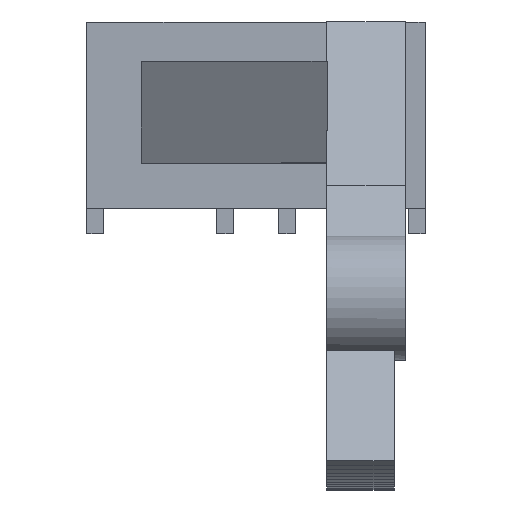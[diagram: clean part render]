
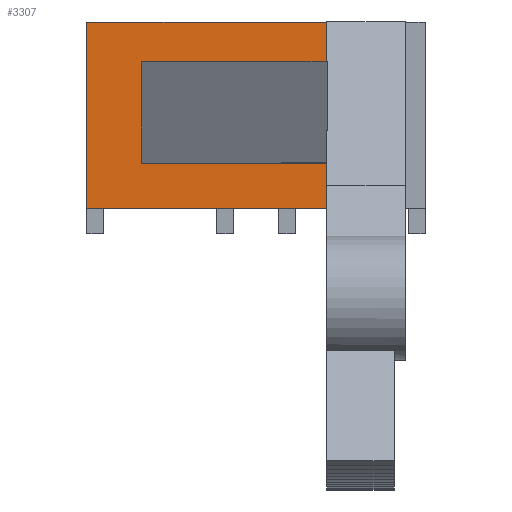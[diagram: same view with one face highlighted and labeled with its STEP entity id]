
A CAD part, top view. The second image highlights one B-rep face of the part: STEP entity #3307.
In plain terms, the highlighted planar face has unit normal (0, 0, 1).
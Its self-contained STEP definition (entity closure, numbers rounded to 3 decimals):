
#102 = PLANE('',#103);
#103 = AXIS2_PLACEMENT_3D('',#104,#105,#106);
#104 = CARTESIAN_POINT('',(6.5,0.,0.));
#105 = DIRECTION('',(1.,-0.,-0.));
#106 = DIRECTION('',(0.,0.,-1.));
#328 = PLANE('',#329);
#329 = AXIS2_PLACEMENT_3D('',#330,#331,#332);
#330 = CARTESIAN_POINT('',(6.5,49.,-41.));
#331 = DIRECTION('',(-0.,1.,-0.));
#332 = DIRECTION('',(0.,0.,-1.));
#384 = PLANE('',#385);
#385 = AXIS2_PLACEMENT_3D('',#386,#387,#388);
#386 = CARTESIAN_POINT('',(-36.,16.,-58.));
#387 = DIRECTION('',(0.,-1.,0.));
#388 = DIRECTION('',(0.,0.,-1.));
#620 = PLANE('',#621);
#621 = AXIS2_PLACEMENT_3D('',#622,#623,#624);
#622 = CARTESIAN_POINT('',(-27.,24.,-40.5));
#623 = DIRECTION('',(-0.619,-0.,0.785));
#624 = DIRECTION('',(-0.785,0.,-0.619));
#633 = VERTEX_POINT('',#634);
#634 = CARTESIAN_POINT('',(6.5,24.,-40.));
#648 = PLANE('',#649);
#649 = AXIS2_PLACEMENT_3D('',#650,#651,#652);
#650 = CARTESIAN_POINT('',(-5.873,24.,-31.577));
#651 = DIRECTION('',(-0.,-1.,-0.));
#652 = DIRECTION('',(0.,0.,-1.));
#660 = EDGE_CURVE('',#661,#633,#663,.T.);
#661 = VERTEX_POINT('',#662);
#662 = CARTESIAN_POINT('',(6.5,16.,-40.));
#663 = SURFACE_CURVE('',#664,(#668,#675),.PCURVE_S1.);
#664 = LINE('',#665,#666);
#665 = CARTESIAN_POINT('',(6.5,24.5,-40.));
#666 = VECTOR('',#667,1.);
#667 = DIRECTION('',(-0.,1.,-0.));
#668 = PCURVE('',#102,#669);
#669 = DEFINITIONAL_REPRESENTATION('',(#670),#674);
#670 = LINE('',#671,#672);
#671 = CARTESIAN_POINT('',(40.,24.5));
#672 = VECTOR('',#673,1.);
#673 = DIRECTION('',(-0.,1.));
#674 = ( GEOMETRIC_REPRESENTATION_CONTEXT(2) 
PARAMETRIC_REPRESENTATION_CONTEXT() REPRESENTATION_CONTEXT('2D SPACE',''
  ) );
#675 = PCURVE('',#676,#681);
#676 = PLANE('',#677);
#677 = AXIS2_PLACEMENT_3D('',#678,#679,#680);
#678 = CARTESIAN_POINT('',(-36.,49.,-40.));
#679 = DIRECTION('',(0.,0.,1.));
#680 = DIRECTION('',(-1.,0.,0.));
#681 = DEFINITIONAL_REPRESENTATION('',(#682),#686);
#682 = LINE('',#683,#684);
#683 = CARTESIAN_POINT('',(-42.5,24.5));
#684 = VECTOR('',#685,1.);
#685 = DIRECTION('',(-0.,-1.));
#686 = ( GEOMETRIC_REPRESENTATION_CONTEXT(2) 
PARAMETRIC_REPRESENTATION_CONTEXT() REPRESENTATION_CONTEXT('2D SPACE',''
  ) );
#2047 = PLANE('',#2048);
#2048 = AXIS2_PLACEMENT_3D('',#2049,#2050,#2051);
#2049 = CARTESIAN_POINT('',(6.5,0.,0.)
  );
#2050 = DIRECTION('',(1.,-0.,-0.));
#2051 = DIRECTION('',(0.,0.,-1.));
#2148 = PLANE('',#2149);
#2149 = AXIS2_PLACEMENT_3D('',#2150,#2151,#2152);
#2150 = CARTESIAN_POINT('',(-5.873,42.,-31.577));
#2151 = DIRECTION('',(-0.,-1.,-0.));
#2152 = DIRECTION('',(0.,0.,-1.));
#2572 = VERTEX_POINT('',#2573);
#2573 = CARTESIAN_POINT('',(-36.,16.,-40.));
#2587 = PLANE('',#2588);
#2588 = AXIS2_PLACEMENT_3D('',#2589,#2590,#2591);
#2589 = CARTESIAN_POINT('',(-36.,49.,-58.));
#2590 = DIRECTION('',(1.,-0.,-0.));
#2591 = DIRECTION('',(0.,0.,-1.));
#2599 = EDGE_CURVE('',#2572,#661,#2600,.T.);
#2600 = SURFACE_CURVE('',#2601,(#2605,#2612),.PCURVE_S1.);
#2601 = LINE('',#2602,#2603);
#2602 = CARTESIAN_POINT('',(-36.,16.,-40.));
#2603 = VECTOR('',#2604,1.);
#2604 = DIRECTION('',(1.,0.,-0.));
#2605 = PCURVE('',#384,#2606);
#2606 = DEFINITIONAL_REPRESENTATION('',(#2607),#2611);
#2607 = LINE('',#2608,#2609);
#2608 = CARTESIAN_POINT('',(-18.,0.));
#2609 = VECTOR('',#2610,1.);
#2610 = DIRECTION('',(-0.,1.));
#2611 = ( GEOMETRIC_REPRESENTATION_CONTEXT(2) 
PARAMETRIC_REPRESENTATION_CONTEXT() REPRESENTATION_CONTEXT('2D SPACE',''
  ) );
#2612 = PCURVE('',#676,#2613);
#2613 = DEFINITIONAL_REPRESENTATION('',(#2614),#2618);
#2614 = LINE('',#2615,#2616);
#2615 = CARTESIAN_POINT('',(-0.,33.));
#2616 = VECTOR('',#2617,1.);
#2617 = DIRECTION('',(-1.,0.));
#2618 = ( GEOMETRIC_REPRESENTATION_CONTEXT(2) 
PARAMETRIC_REPRESENTATION_CONTEXT() REPRESENTATION_CONTEXT('2D SPACE',''
  ) );
#2624 = VERTEX_POINT('',#2625);
#2625 = CARTESIAN_POINT('',(6.5,49.,-40.));
#2646 = EDGE_CURVE('',#2647,#2624,#2649,.T.);
#2647 = VERTEX_POINT('',#2648);
#2648 = CARTESIAN_POINT('',(-36.,49.,-40.));
#2649 = SURFACE_CURVE('',#2650,(#2654,#2661),.PCURVE_S1.);
#2650 = LINE('',#2651,#2652);
#2651 = CARTESIAN_POINT('',(-36.,49.,-40.));
#2652 = VECTOR('',#2653,1.);
#2653 = DIRECTION('',(1.,0.,-0.));
#2654 = PCURVE('',#328,#2655);
#2655 = DEFINITIONAL_REPRESENTATION('',(#2656),#2660);
#2656 = LINE('',#2657,#2658);
#2657 = CARTESIAN_POINT('',(-1.,42.5));
#2658 = VECTOR('',#2659,1.);
#2659 = DIRECTION('',(-0.,-1.));
#2660 = ( GEOMETRIC_REPRESENTATION_CONTEXT(2) 
PARAMETRIC_REPRESENTATION_CONTEXT() REPRESENTATION_CONTEXT('2D SPACE',''
  ) );
#2661 = PCURVE('',#676,#2662);
#2662 = DEFINITIONAL_REPRESENTATION('',(#2663),#2667);
#2663 = LINE('',#2664,#2665);
#2664 = CARTESIAN_POINT('',(-0.,-0.));
#2665 = VECTOR('',#2666,1.);
#2666 = DIRECTION('',(-1.,0.));
#2667 = ( GEOMETRIC_REPRESENTATION_CONTEXT(2) 
PARAMETRIC_REPRESENTATION_CONTEXT() REPRESENTATION_CONTEXT('2D SPACE',''
  ) );
#3137 = VERTEX_POINT('',#3138);
#3138 = CARTESIAN_POINT('',(-26.366,24.,-40.));
#3159 = EDGE_CURVE('',#3137,#3160,#3162,.T.);
#3160 = VERTEX_POINT('',#3161);
#3161 = CARTESIAN_POINT('',(-26.366,42.,-40.));
#3162 = SURFACE_CURVE('',#3163,(#3167,#3174),.PCURVE_S1.);
#3163 = LINE('',#3164,#3165);
#3164 = CARTESIAN_POINT('',(-26.366,36.5,-40.));
#3165 = VECTOR('',#3166,1.);
#3166 = DIRECTION('',(-0.,1.,-0.));
#3167 = PCURVE('',#620,#3168);
#3168 = DEFINITIONAL_REPRESENTATION('',(#3169),#3173);
#3169 = LINE('',#3170,#3171);
#3170 = CARTESIAN_POINT('',(-0.807,-12.5));
#3171 = VECTOR('',#3172,1.);
#3172 = DIRECTION('',(-0.,-1.));
#3173 = ( GEOMETRIC_REPRESENTATION_CONTEXT(2) 
PARAMETRIC_REPRESENTATION_CONTEXT() REPRESENTATION_CONTEXT('2D SPACE',''
  ) );
#3174 = PCURVE('',#676,#3175);
#3175 = DEFINITIONAL_REPRESENTATION('',(#3176),#3180);
#3176 = LINE('',#3177,#3178);
#3177 = CARTESIAN_POINT('',(-9.634,12.5));
#3178 = VECTOR('',#3179,1.);
#3179 = DIRECTION('',(-0.,-1.));
#3180 = ( GEOMETRIC_REPRESENTATION_CONTEXT(2) 
PARAMETRIC_REPRESENTATION_CONTEXT() REPRESENTATION_CONTEXT('2D SPACE',''
  ) );
#3258 = EDGE_CURVE('',#633,#3137,#3259,.T.);
#3259 = SURFACE_CURVE('',#3260,(#3264,#3271),.PCURVE_S1.);
#3260 = LINE('',#3261,#3262);
#3261 = CARTESIAN_POINT('',(-20.937,24.,-40.));
#3262 = VECTOR('',#3263,1.);
#3263 = DIRECTION('',(-1.,-0.,-0.));
#3264 = PCURVE('',#648,#3265);
#3265 = DEFINITIONAL_REPRESENTATION('',(#3266),#3270);
#3266 = LINE('',#3267,#3268);
#3267 = CARTESIAN_POINT('',(8.423,-15.063));
#3268 = VECTOR('',#3269,1.);
#3269 = DIRECTION('',(-0.,-1.));
#3270 = ( GEOMETRIC_REPRESENTATION_CONTEXT(2) 
PARAMETRIC_REPRESENTATION_CONTEXT() REPRESENTATION_CONTEXT('2D SPACE',''
  ) );
#3271 = PCURVE('',#676,#3272);
#3272 = DEFINITIONAL_REPRESENTATION('',(#3273),#3277);
#3273 = LINE('',#3274,#3275);
#3274 = CARTESIAN_POINT('',(-15.063,25.));
#3275 = VECTOR('',#3276,1.);
#3276 = DIRECTION('',(1.,-0.));
#3277 = ( GEOMETRIC_REPRESENTATION_CONTEXT(2) 
PARAMETRIC_REPRESENTATION_CONTEXT() REPRESENTATION_CONTEXT('2D SPACE',''
  ) );
#3307 = ADVANCED_FACE('',(#3308),#676,.T.);
#3308 = FACE_BOUND('',#3309,.F.);
#3309 = EDGE_LOOP('',(#3310,#3311,#3332,#3333,#3356,#3377,#3378,#3379));
#3310 = ORIENTED_EDGE('',*,*,#2599,.F.);
#3311 = ORIENTED_EDGE('',*,*,#3312,.F.);
#3312 = EDGE_CURVE('',#2647,#2572,#3313,.T.);
#3313 = SURFACE_CURVE('',#3314,(#3318,#3325),.PCURVE_S1.);
#3314 = LINE('',#3315,#3316);
#3315 = CARTESIAN_POINT('',(-36.,49.,-40.));
#3316 = VECTOR('',#3317,1.);
#3317 = DIRECTION('',(0.,-1.,0.));
#3318 = PCURVE('',#676,#3319);
#3319 = DEFINITIONAL_REPRESENTATION('',(#3320),#3324);
#3320 = LINE('',#3321,#3322);
#3321 = CARTESIAN_POINT('',(-0.,-0.));
#3322 = VECTOR('',#3323,1.);
#3323 = DIRECTION('',(-0.,1.));
#3324 = ( GEOMETRIC_REPRESENTATION_CONTEXT(2) 
PARAMETRIC_REPRESENTATION_CONTEXT() REPRESENTATION_CONTEXT('2D SPACE',''
  ) );
#3325 = PCURVE('',#2587,#3326);
#3326 = DEFINITIONAL_REPRESENTATION('',(#3327),#3331);
#3327 = LINE('',#3328,#3329);
#3328 = CARTESIAN_POINT('',(-18.,0.));
#3329 = VECTOR('',#3330,1.);
#3330 = DIRECTION('',(-0.,-1.));
#3331 = ( GEOMETRIC_REPRESENTATION_CONTEXT(2) 
PARAMETRIC_REPRESENTATION_CONTEXT() REPRESENTATION_CONTEXT('2D SPACE',''
  ) );
#3332 = ORIENTED_EDGE('',*,*,#2646,.T.);
#3333 = ORIENTED_EDGE('',*,*,#3334,.F.);
#3334 = EDGE_CURVE('',#3335,#2624,#3337,.T.);
#3335 = VERTEX_POINT('',#3336);
#3336 = CARTESIAN_POINT('',(6.5,42.,-40.));
#3337 = SURFACE_CURVE('',#3338,(#3342,#3349),.PCURVE_S1.);
#3338 = LINE('',#3339,#3340);
#3339 = CARTESIAN_POINT('',(6.5,24.5,-40.));
#3340 = VECTOR('',#3341,1.);
#3341 = DIRECTION('',(-0.,1.,-0.));
#3342 = PCURVE('',#676,#3343);
#3343 = DEFINITIONAL_REPRESENTATION('',(#3344),#3348);
#3344 = LINE('',#3345,#3346);
#3345 = CARTESIAN_POINT('',(-42.5,24.5));
#3346 = VECTOR('',#3347,1.);
#3347 = DIRECTION('',(-0.,-1.));
#3348 = ( GEOMETRIC_REPRESENTATION_CONTEXT(2) 
PARAMETRIC_REPRESENTATION_CONTEXT() REPRESENTATION_CONTEXT('2D SPACE',''
  ) );
#3349 = PCURVE('',#2047,#3350);
#3350 = DEFINITIONAL_REPRESENTATION('',(#3351),#3355);
#3351 = LINE('',#3352,#3353);
#3352 = CARTESIAN_POINT('',(40.,24.5));
#3353 = VECTOR('',#3354,1.);
#3354 = DIRECTION('',(-0.,1.));
#3355 = ( GEOMETRIC_REPRESENTATION_CONTEXT(2) 
PARAMETRIC_REPRESENTATION_CONTEXT() REPRESENTATION_CONTEXT('2D SPACE',''
  ) );
#3356 = ORIENTED_EDGE('',*,*,#3357,.T.);
#3357 = EDGE_CURVE('',#3335,#3160,#3358,.T.);
#3358 = SURFACE_CURVE('',#3359,(#3363,#3370),.PCURVE_S1.);
#3359 = LINE('',#3360,#3361);
#3360 = CARTESIAN_POINT('',(-20.937,42.,-40.));
#3361 = VECTOR('',#3362,1.);
#3362 = DIRECTION('',(-1.,-0.,-0.));
#3363 = PCURVE('',#676,#3364);
#3364 = DEFINITIONAL_REPRESENTATION('',(#3365),#3369);
#3365 = LINE('',#3366,#3367);
#3366 = CARTESIAN_POINT('',(-15.063,7.));
#3367 = VECTOR('',#3368,1.);
#3368 = DIRECTION('',(1.,-0.));
#3369 = ( GEOMETRIC_REPRESENTATION_CONTEXT(2) 
PARAMETRIC_REPRESENTATION_CONTEXT() REPRESENTATION_CONTEXT('2D SPACE',''
  ) );
#3370 = PCURVE('',#2148,#3371);
#3371 = DEFINITIONAL_REPRESENTATION('',(#3372),#3376);
#3372 = LINE('',#3373,#3374);
#3373 = CARTESIAN_POINT('',(8.423,-15.063));
#3374 = VECTOR('',#3375,1.);
#3375 = DIRECTION('',(-0.,-1.));
#3376 = ( GEOMETRIC_REPRESENTATION_CONTEXT(2) 
PARAMETRIC_REPRESENTATION_CONTEXT() REPRESENTATION_CONTEXT('2D SPACE',''
  ) );
#3377 = ORIENTED_EDGE('',*,*,#3159,.F.);
#3378 = ORIENTED_EDGE('',*,*,#3258,.F.);
#3379 = ORIENTED_EDGE('',*,*,#660,.F.);
